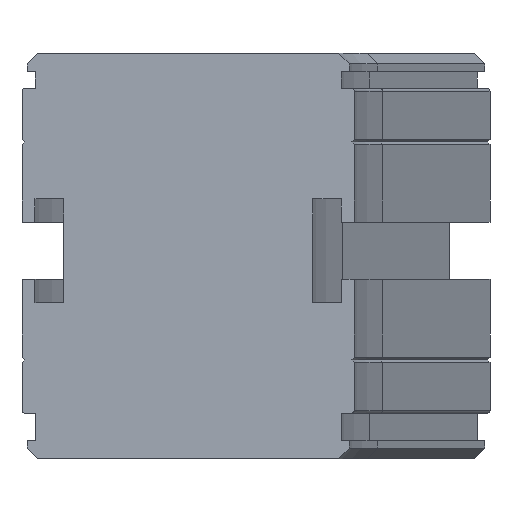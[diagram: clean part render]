
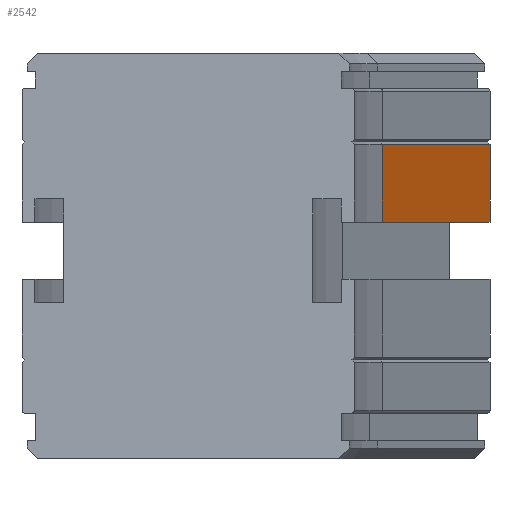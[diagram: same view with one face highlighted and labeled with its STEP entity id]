
A CAD part, left-side view. The second image highlights one B-rep face of the part: STEP entity #2542.
In plain terms, the highlighted planar face has unit normal (-0.259, -0.966, 0).
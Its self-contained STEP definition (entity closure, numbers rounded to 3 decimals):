
#2503=CARTESIAN_POINT('',(121.152,-37.418,-32.5));
#2504=DIRECTION('',(-0.259,-0.966,0.));
#2505=DIRECTION('',(0.0,0.0,-1.0));
#2506=AXIS2_PLACEMENT_3D('',#2503,#2504,#2505);
#2507=PLANE('',#2506);
#2508=CARTESIAN_POINT('',(198.426,-58.123,-32.5));
#2509=VERTEX_POINT('',#2508);
#2510=CARTESIAN_POINT('',(198.426,-58.123,-17.5));
#2511=VERTEX_POINT('',#2510);
#2512=CARTESIAN_POINT('',(198.426,-58.123,-32.5));
#2513=DIRECTION('',(0.0,0.0,1.0));
#2514=VECTOR('',#2513,15.);
#2515=LINE('',#2512,#2514);
#2516=EDGE_CURVE('',#2509,#2511,#2515,.T.);
#2517=ORIENTED_EDGE('',*,*,#2516,.T.);
#2518=CARTESIAN_POINT('',(121.152,-37.418,-17.5));
#2519=VERTEX_POINT('',#2518);
#2520=CARTESIAN_POINT('',(121.152,-37.418,-17.5));
#2521=DIRECTION('',(0.966,-0.259,0.0));
#2522=VECTOR('',#2521,80.);
#2523=LINE('',#2520,#2522);
#2524=EDGE_CURVE('',#2519,#2511,#2523,.T.);
#2525=ORIENTED_EDGE('',*,*,#2524,.F.);
#2526=CARTESIAN_POINT('',(121.152,-37.418,-32.5));
#2527=VERTEX_POINT('',#2526);
#2528=CARTESIAN_POINT('',(121.152,-37.418,-32.5));
#2529=DIRECTION('',(0.0,0.0,1.0));
#2530=VECTOR('',#2529,15.);
#2531=LINE('',#2528,#2530);
#2532=EDGE_CURVE('',#2527,#2519,#2531,.T.);
#2533=ORIENTED_EDGE('',*,*,#2532,.F.);
#2534=CARTESIAN_POINT('',(121.152,-37.418,-32.5));
#2535=DIRECTION('',(0.966,-0.259,0.0));
#2536=VECTOR('',#2535,80.);
#2537=LINE('',#2534,#2536);
#2538=EDGE_CURVE('',#2527,#2509,#2537,.T.);
#2539=ORIENTED_EDGE('',*,*,#2538,.T.);
#2540=EDGE_LOOP('',(#2517,#2525,#2533,#2539));
#2541=FACE_OUTER_BOUND('',#2540,.T.);
#2542=ADVANCED_FACE('',(#2541),#2507,.T.);
